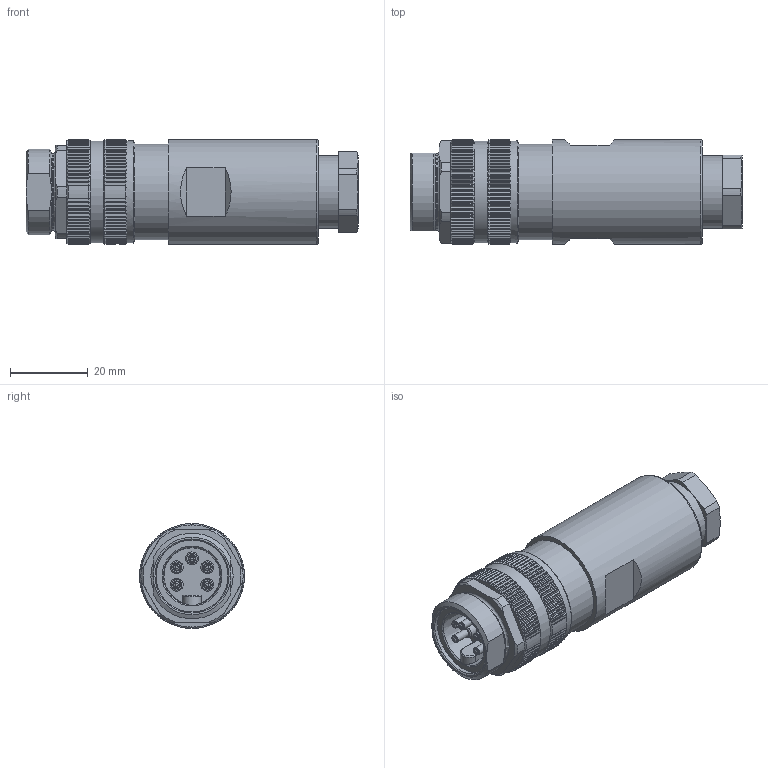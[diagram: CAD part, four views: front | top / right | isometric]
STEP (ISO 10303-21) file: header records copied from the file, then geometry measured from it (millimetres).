
FILE_DESCRIPTION(/* description */ (''),/* implementation_level */ '2;1');
FILE_NAME(/* name */ '99-2445-21-05-001_00.stp',/* time_stamp */ '2023-04-04T12:55:50+02:00',/* author */ (''),/* organization */ (''),/* preprocessor_version */ 'ST-DEVELOPER v16',/* originating_system */ 'SIEMENS PLM Software NX 11.0',/* authorisation */ '');
FILE_SCHEMA (('AUTOMOTIVE_DESIGN { 1 0 10303 214 3 1 1 1 }'));
Length unit declared in the file: millimetre
Products named in the file (1): atoc2FA458C5l1eo
Bounding box: 85.53 x 27 x 27 mm (x, y, z)
Volume: 41112.5 mm3; surface area: 9168.1 mm2
Topology: 1 solids, 1 shells, 947 faces, 2439 edges, 1514 vertices
Faces by surface type: plane 519, cone 209, cylinder 198, torus 11, bspline 10
Full cylindrical faces by diameter (mm): 2 x5, 3.3 x5, 3.5 x1, 11.5 x1, 18.5 x1, 18.6 x1, 24.5 x1, 26.3 x2, 27 x1
Entity records: 29502 total; most frequent: CARTESIAN_POINT 7366, ORIENTED_EDGE 4756, DIRECTION 4364, EDGE_CURVE 2378, AXIS2_PLACEMENT_3D 1723, VERTEX_POINT 1496, EDGE_LOOP 1010, ADVANCED_FACE 947
